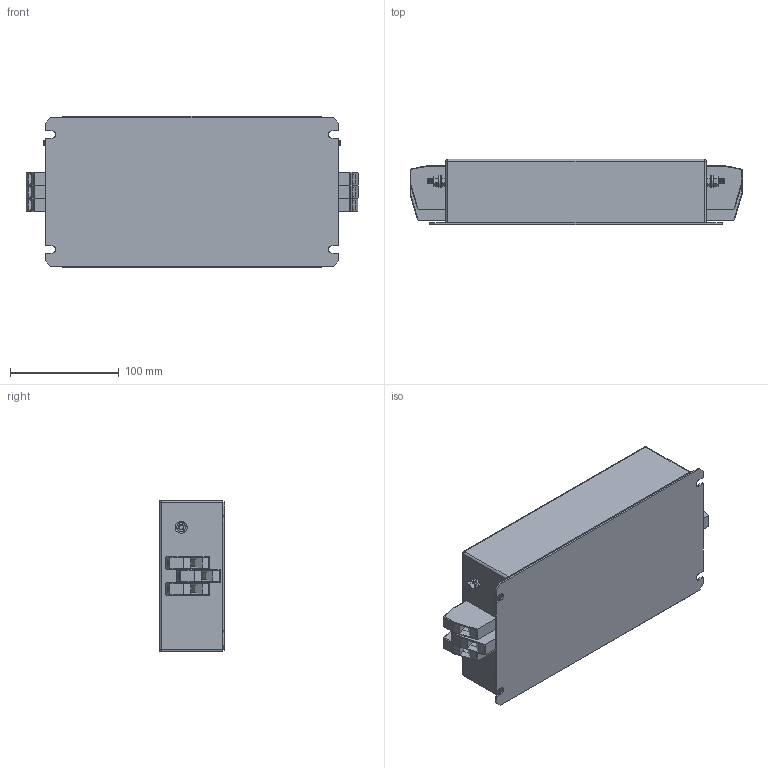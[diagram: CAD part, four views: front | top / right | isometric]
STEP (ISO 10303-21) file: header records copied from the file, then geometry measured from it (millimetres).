
FILE_DESCRIPTION (( 'STEP AP203' ), '1' );
FILE_NAME ('NF-DAR-40-3.STEP', '2018-09-21T10:24:57', ( '' ), ( '' ), 'SwSTEP 2.0', 'SolidWorks 2017', '' );
FILE_SCHEMA (( 'CONFIG_CONTROL_DESIGN' ));
Length unit declared in the file: millimetre
Products named in the file (7): hex screw_am_B18.6.7M - M5 x 0.8 x 13 Indented HHMS --13S; HDFK-16; DLC-D-H16; flat washer narrow_am_B18.22M - Plain washer, 5 mm, narrow; hex nut style 1_am_B18.2.4.1M - Hex nut, Style 1,  M5 x 0.8 --D-N; NF-DAR-40-3; M5x13 Earth post
Assembly tree (13 placements, depth 3):
  NF-DAR-40-3
    DLC-D-H16
    HDFK-16  x6
    M5x13 Earth post  x2
      hex screw_am_B18.6.7M - M5 x 0.8 x 13 Indented HHMS --13S
      flat washer narrow_am_B18.22M - Plain washer, 5 mm, narrow
      hex nut style 1_am_B18.2.4.1M - Hex nut, Style 1,  M5 x 0.8 --D-N
Bounding box: 306.01 x 60 x 140 mm (x, y, z)
Volume: 2092626.8 mm3; surface area: 166126.3 mm2
Topology: 15 solids, 15 shells, 802 faces, 1880 edges, 1144 vertices
Faces by surface type: plane 446, cone 200, cylinder 152, sphere 4
Entity records: 9181 total; most frequent: CARTESIAN_POINT 1543, DIRECTION 1502, ORIENTED_EDGE 1352, EDGE_CURVE 676, AXIS2_PLACEMENT_3D 567, VERTEX_POINT 416, VECTOR 368, LINE 368
